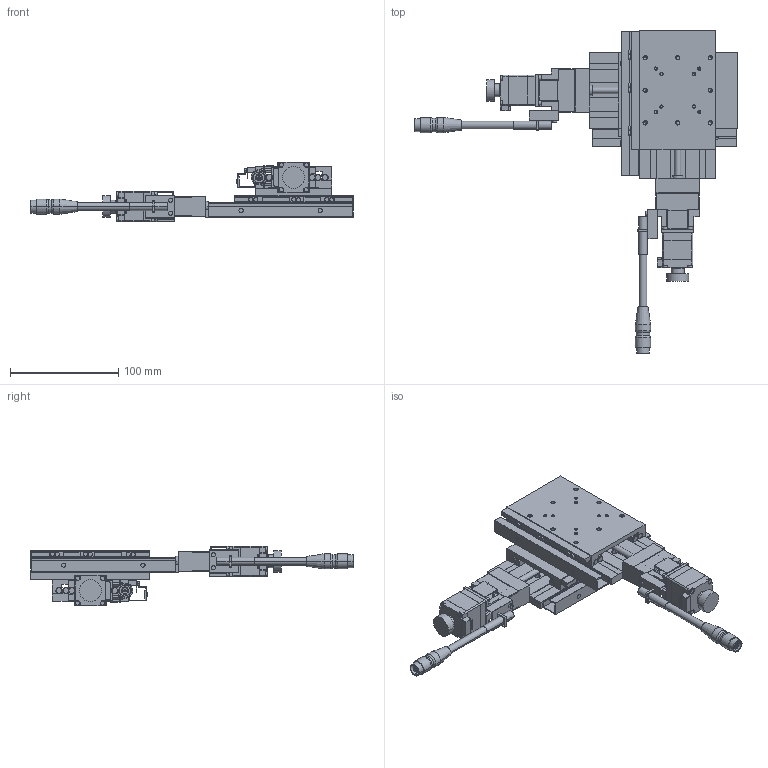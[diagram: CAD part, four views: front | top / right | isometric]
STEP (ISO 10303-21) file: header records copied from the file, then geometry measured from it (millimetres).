
FILE_DESCRIPTION(('STEP AP203'),'1');
FILE_NAME('C:/3D-Trans/3D_PMG750T-L□-C4+240122.step','2024-02-27T00:36:08',(' '),(' '),'Spatial InterOp 3D',' ',' ');
FILE_SCHEMA(('CONFIG_CONTROL_DESIGN'));
Length unit declared in the file: millimetre
Products named in the file (13): 1; 2; 3; 4; 5; 6; 7; 8; 9; 10; 11; 12; 13
Bounding box: 297.5 x 297.5 x 55 mm (x, y, z)
Volume: 430726.6 mm3; surface area: 199432.2 mm2
Topology: 13 solids, 13 shells, 1520 faces, 3808 edges, 2420 vertices
Faces by surface type: plane 836, cylinder 510, cone 172, extrusion 2
Entity records: 46334 total; most frequent: CARTESIAN_POINT 8365, DIRECTION 8046, ORIENTED_EDGE 7536, EDGE_CURVE 3768, AXIS2_PLACEMENT_3D 2773, VECTOR 2500, LINE 2498, VERTEX_POINT 2420
